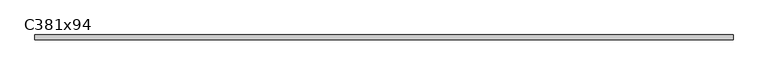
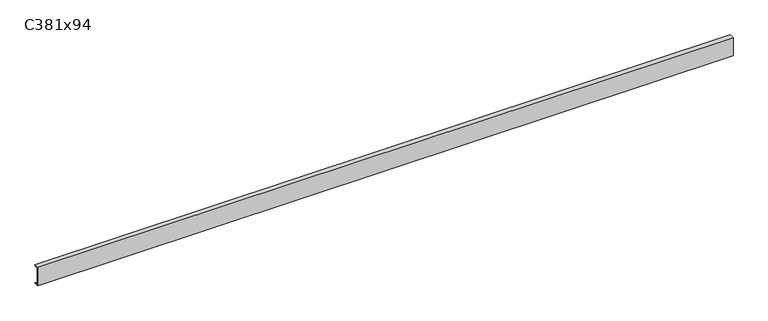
"""IFC4 building model written with IfcOpenShell, lengths in millimetres: beam geometry, M_C-Channel_305x105 : C381x94."""

from ifc_helpers import new_model, si_unit, point, frame, frame_2d, origin, place, context, project, spatial, polyline, circle_curve, trimmed, segment, composite_curve, outline, extrude, source, transform, mapped, element, save


def c381x94_299a31d8(model_context):
    return source(origin(), model_context, "Body", "SweptSolid", [
        extrude(outline(composite_curve([segment(polyline([(-13.8909985, 190.5), (80.1090015, 190.5)]), True, "CONTINUOUS"), segment(trimmed(circle_curve(frame_2d((67.4090015, 190.5)), 12.7), [point((80.1090015, 190.5))], [point((67.4090015, 177.8))], False, "CARTESIAN"), True, "CONTINUOUS"), segment(polyline([(67.4090015, 177.8), (-0.8909985, 166.9823427), (-0.8909985, -166.9823427), (67.4090015, -177.8)]), True, "CONTINUOUS"), segment(trimmed(circle_curve(frame_2d((67.4090015, -190.5)), 12.7), [point((67.4090015, -177.8))], [point((80.1090015, -190.5))], False, "CARTESIAN"), True, "CONTINUOUS"), segment(polyline([(80.1090015, -190.5), (-13.8909985, -190.5), (-13.8909985, 190.5)]), True, "CONTINUOUS")], self_intersect=False)), frame((-4911.9820009, 0.0, 0.0), z_axis=(1.0, 0.0, 0.0), x_axis=(0.0, 1.0, 0.0)), (0.0, 0.0, 1.0), 13712.0),
        extrude(outline(polyline([(4.2340015, 166.8239583), (4.2340015, -164.495707), (4.2340015, -166.8239583), (-0.8909985, -166.012238), (-0.8909985, 166.012238), (4.2340015, 166.8239583)])), frame((-4911.9820009, 0.0, 0.0), z_axis=(1.0, 0.0, 0.0), x_axis=(0.0, 1.0, 0.0)), (0.0, 0.0, 1.0), 13712.0),
    ])


if __name__ == "__main__":
    model = new_model("IFC4")
    model_context = context("Model", 3, world=origin())
    ifc_project = project(units=[si_unit("LENGTHUNIT", "METRE", prefix="MILLI")], contexts=[model_context])
    site = spatial("IfcSite", under=ifc_project)
    building = spatial("IfcBuilding", under=site)
    placement = place(None, origin())
    c381x94_shape = c381x94_299a31d8(model_context)
    element("IfcBeam", 1, ObjectType="M_C-Channel_305x105 : C381x94", at=placement, inside=building, context=model_context, shape_type="MappedRepresentation", body=[
        mapped(c381x94_shape, transform((0.0, 0.0, 0.0), x_axis=(1.0, 0.0, 0.0), y_axis=(0.0, 1.0, 0.0), z_axis=(0.0, 0.0, 1.0))),
    ])
    save(model, "model.ifc")
